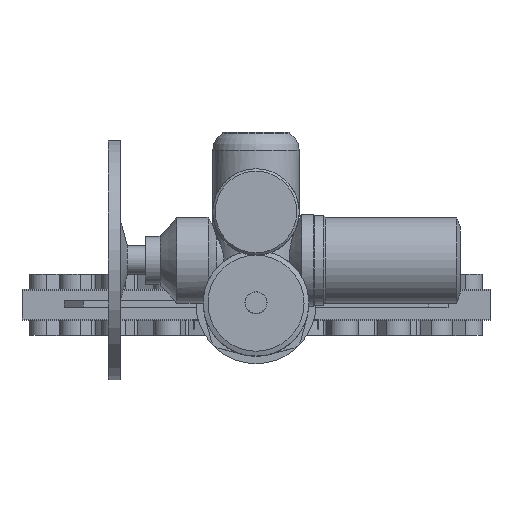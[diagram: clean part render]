
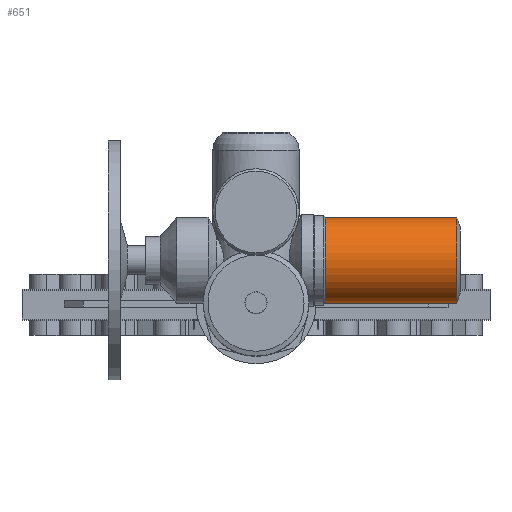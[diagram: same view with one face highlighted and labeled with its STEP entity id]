
A CAD part, top view. The second image highlights one B-rep face of the part: STEP entity #651.
In plain terms, the highlighted cylindrical face has radius 90 mm (diameter 180 mm), a full revolution.
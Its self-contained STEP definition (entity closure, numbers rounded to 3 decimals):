
#651=ADVANCED_FACE('',(#3989,#3991),#3993,.T.);
#3989=FACE_OUTER_BOUND('',#3990,.T.);
#3990=EDGE_LOOP('',(#6119));
#3991=FACE_OUTER_BOUND('',#3992,.T.);
#3992=EDGE_LOOP('',(#6120));
#3993=CYLINDRICAL_SURFACE('',#3994,90.);
#3994=AXIS2_PLACEMENT_3D('',#3995,#3996,#3997);
#3995=CARTESIAN_POINT('',(0.,-417.721,0.));
#3996=DIRECTION('',(0.,1.,0.));
#3997=DIRECTION('',(0.,0.,1.));
#6119=ORIENTED_EDGE('',*,*,#7195,.F.);
#6120=ORIENTED_EDGE('',*,*,#7197,.T.);
#7195=EDGE_CURVE('',#8933,#8933,#8934,.T.);
#7197=EDGE_CURVE('',#8937,#8937,#8938,.T.);
#8933=VERTEX_POINT('',#14136);
#8934=CIRCLE('',#14137,90.);
#8937=VERTEX_POINT('',#14146);
#8938=CIRCLE('',#14147,90.);
#14136=CARTESIAN_POINT('',(0.,-143.811,90.));
#14137=AXIS2_PLACEMENT_3D('',#14138,#14139,#14140);
#14138=CARTESIAN_POINT('',(0.,-143.811,0.));
#14139=DIRECTION('',(0.,1.,0.));
#14140=DIRECTION('',(0.,0.,1.));
#14146=CARTESIAN_POINT('',(0.,-417.721,90.));
#14147=AXIS2_PLACEMENT_3D('',#14148,#14149,#14150);
#14148=CARTESIAN_POINT('',(0.,-417.721,0.));
#14149=DIRECTION('',(0.,1.,0.));
#14150=DIRECTION('',(0.,0.,1.));
